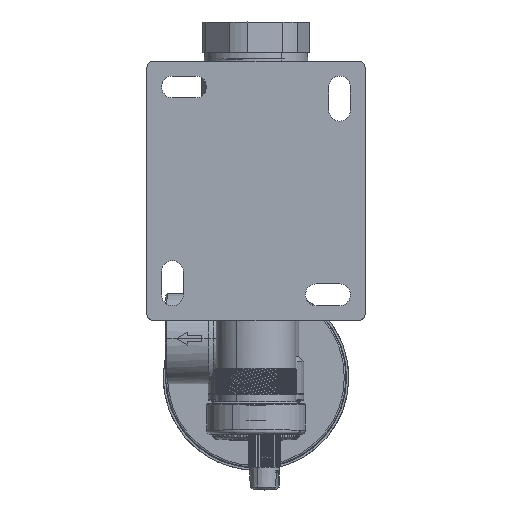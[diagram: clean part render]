
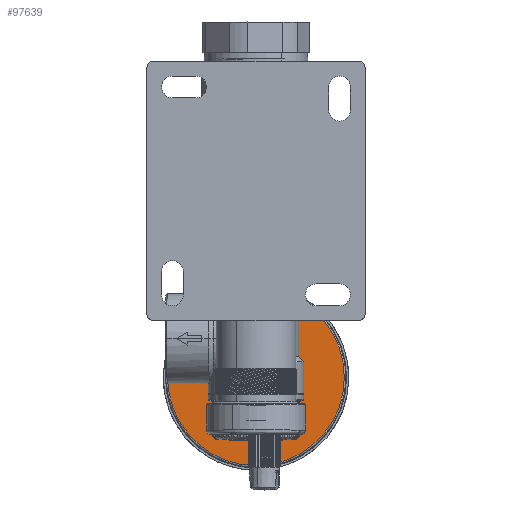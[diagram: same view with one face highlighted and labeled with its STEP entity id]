
A CAD part, top view. The second image highlights one B-rep face of the part: STEP entity #97639.
In plain terms, the highlighted planar face has unit normal (0, 0, 1) as drawn and (0, 0, -1) by its records, which use the part's own axes.
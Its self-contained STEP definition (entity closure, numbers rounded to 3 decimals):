
#7970 = DIRECTION ( 'NONE',  ( -1., 0., 0. ) ) ;
#14398 = DIRECTION ( 'NONE',  ( -1., 0., 0. ) ) ;
#17449 = DIRECTION ( 'NONE',  ( 0., 0., -1. ) ) ;
#17570 = CARTESIAN_POINT ( 'NONE',  ( 0., 0., -1. ) ) ;
#25978 = ORIENTED_EDGE ( 'NONE', *, *, #64829, .F. ) ;
#31979 = CARTESIAN_POINT ( 'NONE',  ( 0., 15.193, -1. ) ) ;
#50340 = EDGE_LOOP ( 'NONE', ( #135009, #25978 ) ) ;
#53126 = CIRCLE ( 'NONE', #135769, 30.386 ) ;
#56878 = AXIS2_PLACEMENT_3D ( 'NONE', #31979, #17449, #14398 ) ;
#57294 = CARTESIAN_POINT ( 'NONE',  ( 30.386, 0., -1. ) ) ;
#64829 = EDGE_CURVE ( 'NONE', #108682, #104781, #53126, .T. ) ;
#75725 = EDGE_CURVE ( 'NONE', #104781, #108682, #86925, .T. ) ;
#76648 = CARTESIAN_POINT ( 'NONE',  ( -30.386, 0., -1. ) ) ;
#86925 = CIRCLE ( 'NONE', #143137, 30.386 ) ;
#87447 = DIRECTION ( 'NONE',  ( 0., 0., 1. ) ) ;
#97639 = ADVANCED_FACE ( 'NONE', ( #197196 ), #137383, .T. ) ;
#104781 = VERTEX_POINT ( 'NONE', #76648 ) ;
#108682 = VERTEX_POINT ( 'NONE', #57294 ) ;
#112661 = DIRECTION ( 'NONE',  ( -1., 0., 0. ) ) ;
#135009 = ORIENTED_EDGE ( 'NONE', *, *, #75725, .F. ) ;
#135769 = AXIS2_PLACEMENT_3D ( 'NONE', #17570, #87447, #112661 ) ;
#137383 = PLANE ( 'NONE',  #56878 ) ;
#143137 = AXIS2_PLACEMENT_3D ( 'NONE', #149462, #184431, #7970 ) ;
#149462 = CARTESIAN_POINT ( 'NONE',  ( 0., 0., -1. ) ) ;
#184431 = DIRECTION ( 'NONE',  ( 0., 0., 1. ) ) ;
#197196 = FACE_OUTER_BOUND ( 'NONE', #50340, .T. ) ;
